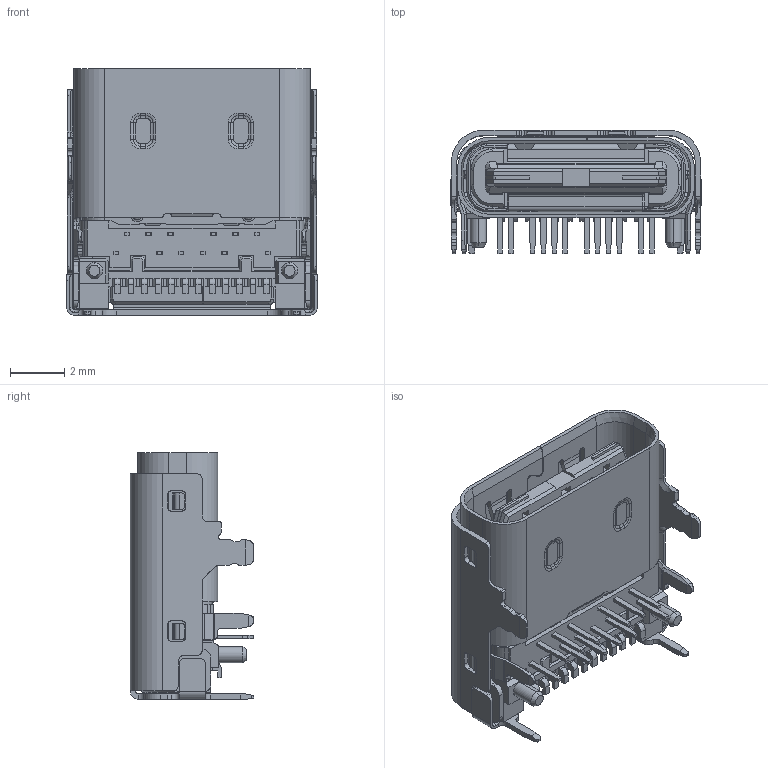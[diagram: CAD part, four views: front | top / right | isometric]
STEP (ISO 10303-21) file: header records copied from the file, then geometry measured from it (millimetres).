
FILE_DESCRIPTION((''),'2;1');
FILE_NAME('1111','2017-08-10T',('k49820'),(''),'PRO/ENGINEER BY PARAMETRIC TECHNOLOGY CORPORATION, 2009360','PRO/ENGINEER BY PARAMETRIC TECHNOLOGY CORPORATION, 2009360','');
FILE_SCHEMA(('CONFIG_CONTROL_DESIGN'));
Length unit declared in the file: millimetre
Products named in the file (1): 1111
Bounding box: 9.25 x 4.55 x 9.11 mm (x, y, z)
Volume: 135.9 mm3; surface area: 971.2 mm2
Topology: 1 solids, 106 shells, 3218 faces, 8501 edges, 5490 vertices
Faces by surface type: plane 2512, cylinder 487, cone 93, torus 66, bspline 56, extrusion 4
Entity records: 100536 total; most frequent: CARTESIAN_POINT 20762, ORIENTED_EDGE 16998, DIRECTION 15706, EDGE_CURVE 8499, VECTOR 6948, LINE 6944, VERTEX_POINT 5490, AXIS2_PLACEMENT_3D 4379
